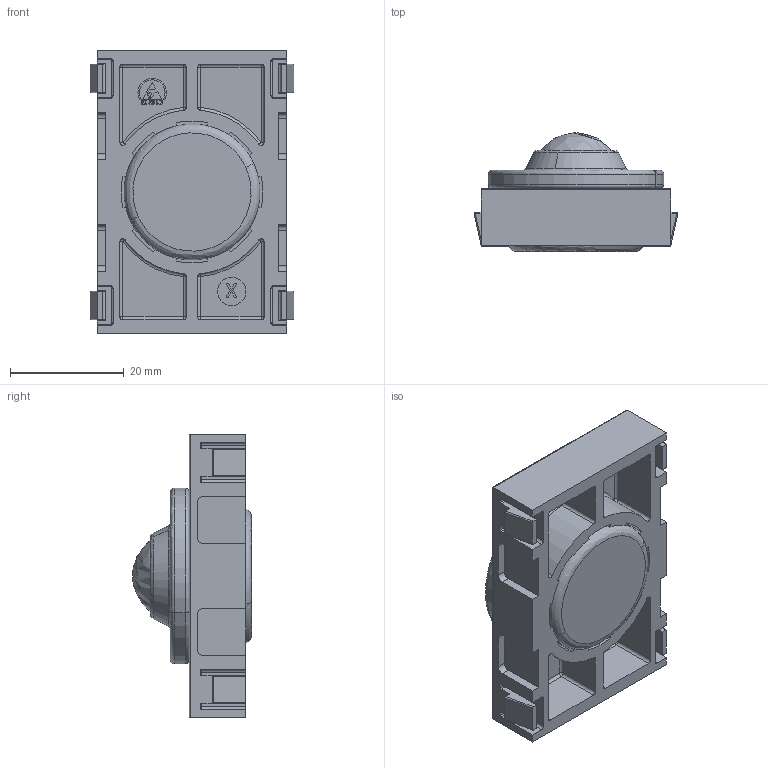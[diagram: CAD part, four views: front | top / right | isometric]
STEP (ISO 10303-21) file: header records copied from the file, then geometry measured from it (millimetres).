
FILE_DESCRIPTION (( 'STEP AP203' ), '1' );
FILE_NAME ('062AEQE.50.STEP', '2015-09-14T12:26:41', ( 'Fath' ), ( 'Hewlett-Packard Company' ), 'SwSTEP 2.0', 'SolidWorks 2014', '' );
FILE_SCHEMA (( 'CONFIG_CONTROL_DESIGN' ));
Length unit declared in the file: millimetre
Products named in the file (3): 062AEQE.50; 062AQE; 062AER91.50_062ACD2491ESD.50
Assembly tree (2 placements, depth 2):
  062AEQE.50
    062AER91.50_062ACD2491ESD.50
    062AQE
Bounding box: 35.9 x 20.96 x 50 mm (x, y, z)
Volume: 15416 mm3; surface area: 10802.2 mm2
Topology: 2 solids, 3 shells, 434 faces, 1131 edges, 691 vertices
Faces by surface type: plane 204, cylinder 143, torus 31, sphere 28, bspline 26, cone 2
Entity records: 14348 total; most frequent: CARTESIAN_POINT 3663, ORIENTED_EDGE 2198, DIRECTION 2133, EDGE_CURVE 1099, AXIS2_PLACEMENT_3D 713, LINE 707, VECTOR 707, VERTEX_POINT 691
